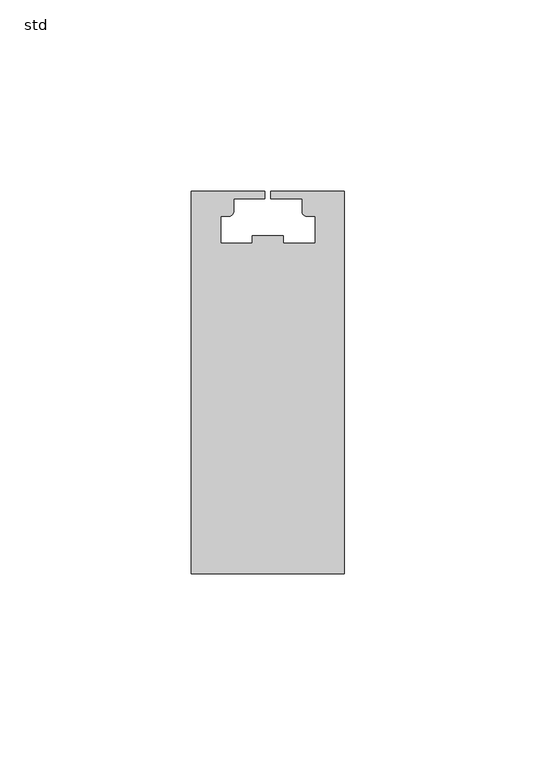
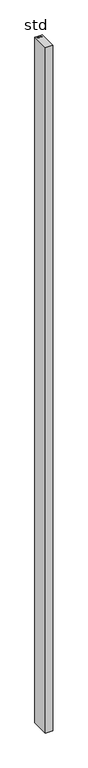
"""IFC4 building model written with IfcOpenShell, lengths in millimetres: column geometry, NLRS_21_COL_drager ST.100_Storax : std."""

from ifc_helpers import new_model, si_unit, point, frame_2d, origin, origin_with_axes, place, context, project, spatial, polyline, circle_curve, trimmed, segment, composite_curve, outline, extrude, source, transform, mapped, element, save


def std_43d18051(model_context):
    return source(origin(), model_context, "Body", "SweptSolid", [
        extrude(outline(composite_curve([segment(polyline([(20.0, -1.0), (20.0, -101.0), (-20.0, -101.0), (-20.0, -1.0), (-0.7528633, -1.0), (-0.7528633, -3.0), (-8.9220615, -3.0), (-8.9220615, -6.2788187)]), True, "CONTINUOUS"), segment(trimmed(circle_curve(frame_2d((-10.1231703, -6.2788187)), 1.2011087), [point((-8.9220615, -6.2788187))], [point((-10.1231703, -7.4799274))], False, "CARTESIAN"), True, "CONTINUOUS"), segment(polyline([(-10.1231703, -7.4799274), (-12.3724438, -7.4799274), (-12.3724438, -14.5683484), (-4.0479621, -14.5683484), (-4.0479621, -12.5683484), (4.0479621, -12.5683484), (4.0479621, -14.5683484), (12.3724438, -14.5683484), (12.3724438, -7.4799274), (10.1231703, -7.4799274)]), True, "CONTINUOUS"), segment(trimmed(circle_curve(frame_2d((10.1231703, -6.2788187)), 1.2011087), [point((10.1231703, -7.4799274))], [point((8.9220615, -6.2788187))], False, "CARTESIAN"), True, "CONTINUOUS"), segment(polyline([(8.9220615, -6.2788187), (8.9220615, -3.0), (0.7528633, -3.0), (0.7528633, -1.0), (20.0, -1.0)]), True, "CONTINUOUS")], self_intersect=False)), origin_with_axes(), (0.0, 0.0, 1.0), 4000.0),
    ])


if __name__ == "__main__":
    model = new_model("IFC4")
    model_context = context("Model", 3, world=origin())
    ifc_project = project(units=[si_unit("LENGTHUNIT", "METRE", prefix="MILLI")], contexts=[model_context])
    site = spatial("IfcSite", under=ifc_project)
    building = spatial("IfcBuilding", under=site)
    placement = place(None, origin())
    std_shape = std_43d18051(model_context)
    element("IfcColumn", 1, ObjectType="NLRS_21_COL_drager ST.100_Storax : std", at=placement, inside=building, context=model_context, shape_type="MappedRepresentation", body=[
        mapped(std_shape, transform((0.0, 0.0, 0.0), x_axis=(1.0, 0.0, 0.0), y_axis=(0.0, 1.0, 0.0), z_axis=(0.0, 0.0, 1.0))),
    ])
    save(model, "model.ifc")
